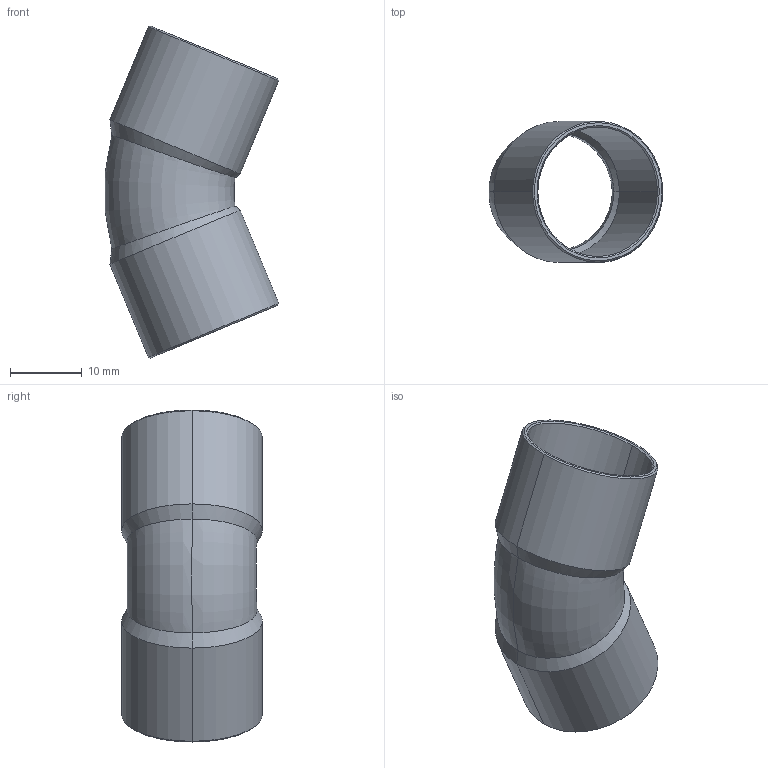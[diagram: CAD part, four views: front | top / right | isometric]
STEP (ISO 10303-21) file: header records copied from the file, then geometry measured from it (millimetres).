
FILE_DESCRIPTION((''),'2;1');
FILE_NAME('P:\Bouwmaten\z-maattekeningen 3D\5000\5040\1504118.stp','2005-10-12T14:30:59',('Kris'),(''),'Autodesk Inventor 8','Autodesk Inventor 8','');
FILE_SCHEMA(('AUTOMOTIVE_DESIGN { 1 0 10303 214 1 1 1 1 }'));
Length unit declared in the file: millimetre
Products named in the file (1): 1504118
Bounding box: 24.12 x 19.6 x 46.15 mm (x, y, z)
Volume: 1907.6 mm3; surface area: 4847.5 mm2
Topology: 1 solids, 1 shells, 30 faces, 60 edges, 32 vertices
Faces by surface type: cone 12, bspline 9, torus 4, cylinder 4, plane 1
Entity records: 1027 total; most frequent: CARTESIAN_POINT 414, DIRECTION 124, ORIENTED_EDGE 120, EDGE_CURVE 60, AXIS2_PLACEMENT_3D 50, VERTEX_POINT 32, EDGE_LOOP 32, FACE_OUTER_BOUND 30
